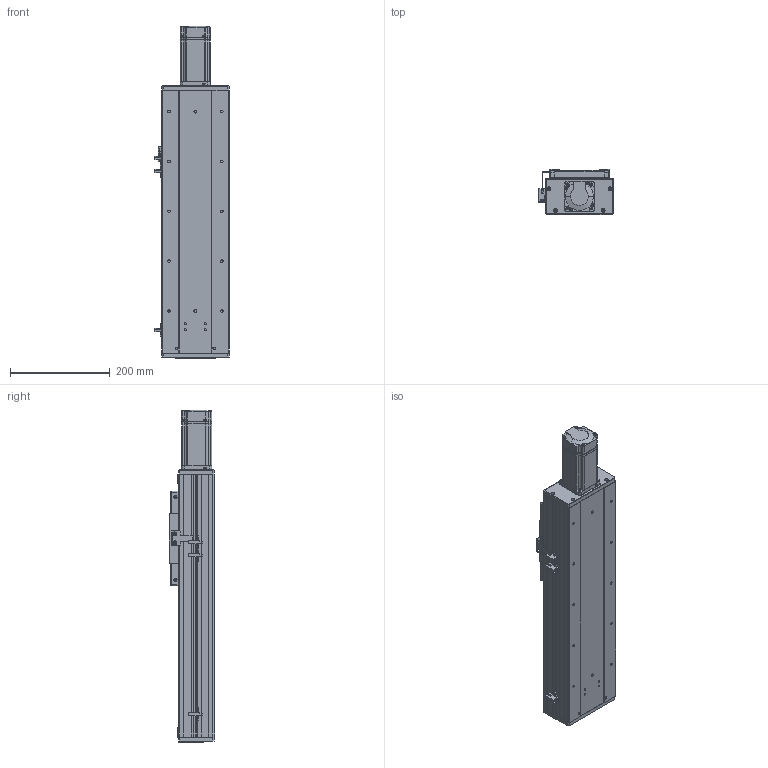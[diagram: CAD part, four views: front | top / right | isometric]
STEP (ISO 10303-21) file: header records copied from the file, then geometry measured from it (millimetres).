
FILE_DESCRIPTION (( 'STEP AP203' ), '1' );
FILE_NAME ('RY140F-L2020-300-MK.SLDASM_250.step', '2021-03-02T06:23:34', ( '盈信电脑' ), ( '东莞市道滘镇水果街19号' ), 'SwSTEP 2.0', 'SolidWorks 2012', '' );
FILE_SCHEMA (( 'CONFIG_CONTROL_DESIGN' ));
Products named in the file (18): RY140F-L2020-300-MK.SLDASM_250; 侐源滅袉蝶; RY140F-672覜茼んえ; 滅袉蝶18-10; RY140F-詩湍揤え; 15; RY140F-后盖板(铝件）; 覜茼ん672; 侂狟400W侜督萇儂; RY140F-直连型材铝滑块(16丝杆); RY100F-詩湍揤踡謫; RY140F-詩湍幗謫粣; RY140F-直连前盖板(铝件）; RY140F-滅鳥奻裔; RY140F-300-MK眻蟀詩湍_250; RY140F-300-MK眻蟀倰第奻裔啣_250; RY140F-直连型材铝滑块连接座; RY140F-300-MK眻蟀倰第菁釱_250
Assembly tree (22 placements, depth 3):
  RY140F-L2020-300-MK.SLDASM_250
    RY140F-300-MK眻蟀倰第菁釱_250
    RY140F-300-MK眻蟀倰第奻裔啣_250  x2
    RY140F-300-MK眻蟀詩湍_250
    RY140F-直连型材铝滑块连接座
    RY140F-滅鳥奻裔
    RY140F-詩湍幗謫粣
    RY100F-詩湍揤踡謫
    RY140F-直连型材铝滑块(16丝杆)
    RY140F-直连前盖板(铝件）
    RY140F-后盖板(铝件）
    侂狟400W侜督萇儂
      15
    覜茼ん672  x3
    RY140F-672覜茼んえ
    RY140F-詩湍揤え  x2
    滅袉蝶18-10
    侐源滅袉蝶  x2
Bounding box: 148.7 x 91 x 665.5 mm (x, y, z)
Volume: 2538133.8 mm3; surface area: 844704.1 mm2
Topology: 21 solids, 21 shells, 1876 faces, 5173 edges, 3336 vertices
Faces by surface type: plane 854, cylinder 842, cone 158, bspline 18, torus 4
Entity records: 54426 total; most frequent: CARTESIAN_POINT 11005, DIRECTION 8812, ORIENTED_EDGE 8534, EDGE_CURVE 4267, AXIS2_PLACEMENT_3D 3131, VERTEX_POINT 2804, LINE 2550, VECTOR 2550
